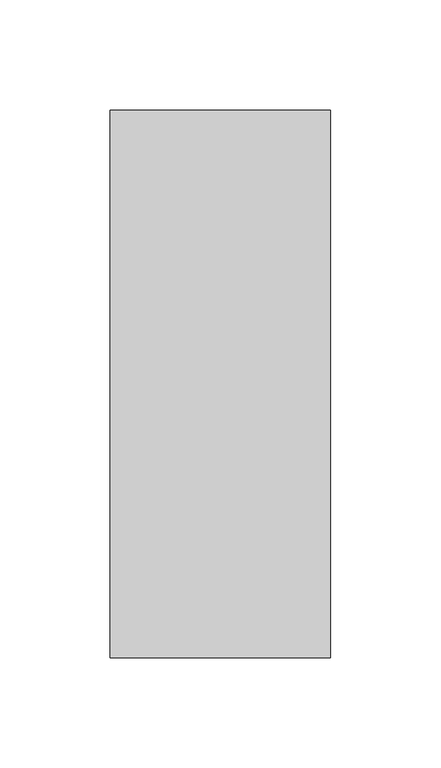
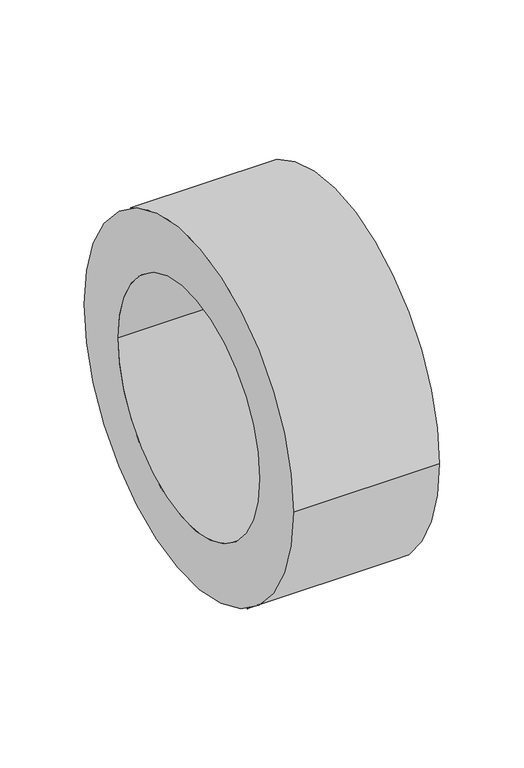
"""IFC4 building model written with IfcOpenShell, lengths in millimetres: pipe fitting geometry, СТ_Подвесы_ДляТруб_IsotermSM_D10-325_СимфонияТепла : Isoterm SM 40-168."""

import ifcopenshell
import ifcopenshell.guid

model = None  # the IFC model being written
_history = None  # IfcOwnerHistory: only IFC2X3 demands one
_inside = {}  # id of a spatial element -> (the spatial element, [elements in it])
_under = {}  # id of a project, library or spatial element -> (it, [spatial elements below it])
_declared = {}  # id of a project -> (the project, [libraries it declares])
_typed = {}  # id of a type object -> (the type object, [elements of that type])
_made_of = {}  # id of a material, layer set ... -> (it, [elements and type objects made of it])


def new_model(schema):
    """Start an empty IFC model of exactly this schema.

    Asked for "IFC4X3", IfcOpenShell would pick the latest addendum, in which some entities
    have other attributes; the version numbers below select the first issue.
    IFC2X3 requires an IfcOwnerHistory on every rooted entity: one is made here for all.
    """
    global model, _history
    if schema == "IFC4X3":
        model = ifcopenshell.file(schema_version=(4, 3, 0, 0))
    else:
        model = ifcopenshell.file(schema=schema)
    _inside.clear()
    _under.clear()
    _declared.clear()
    _typed.clear()
    _made_of.clear()
    _history = None
    if model.schema == "IFC2X3":
        org = make("IfcOrganization", Name="unknown")
        user = make(
            "IfcPersonAndOrganization",
            ThePerson=make("IfcPerson", FamilyName="unknown"),
            TheOrganization=org,
        )
        app = make(
            "IfcApplication",
            ApplicationDeveloper=org,
            Version="unknown",
            ApplicationFullName="unknown",
            ApplicationIdentifier="unknown",
        )
        _history = make(
            "IfcOwnerHistory",
            OwningUser=user,
            OwningApplication=app,
            ChangeAction="ADDED",
            CreationDate=0,
        )
    return model


def make(cls, **values):
    """One entity of the class cls with the attributes given. An attribute that is None is left unset."""
    return model.create_entity(
        cls, **{name: value for name, value in values.items() if value is not None}
    )


def rooted(cls, **values):
    """An entity with a GlobalId (a new one), such as an element, a storey or a relation."""
    return make(cls, GlobalId=ifcopenshell.guid.new(), OwnerHistory=_history, **values)


def si_unit(unit_type, name, prefix=None):
    """IfcSIUnit, for example si_unit("LENGTHUNIT", "METRE", prefix="MILLI")."""
    return make("IfcSIUnit", UnitType=unit_type, Prefix=prefix, Name=name)


def assignment(units):
    """IfcUnitAssignment: the units of a project."""
    return None if units is None else make("IfcUnitAssignment", Units=units)


def point(xyz):
    """IfcCartesianPoint."""
    return None if xyz is None else make("IfcCartesianPoint", Coordinates=xyz)


def direction(xyz):
    """IfcDirection."""
    return None if xyz is None else make("IfcDirection", DirectionRatios=xyz)


def frame(location, z_axis=None, x_axis=None):
    """IfcAxis2Placement3D, a coordinate frame: its origin and axes. An axis left out is left unset."""
    return make(
        "IfcAxis2Placement3D",
        Location=point(location),
        Axis=direction(z_axis),
        RefDirection=direction(x_axis),
    )


def frame_2d(location, x_axis=None):
    """IfcAxis2Placement2D, a coordinate frame in the plane: its origin and x axis."""
    return make(
        "IfcAxis2Placement2D", Location=point(location), RefDirection=direction(x_axis)
    )


def origin():
    """The frame at (0, 0, 0) with its axes left unset."""
    return frame((0.0, 0.0, 0.0))


def origin_2d():
    """The frame at (0, 0) in the plane with its x axis left unset."""
    return frame_2d((0.0, 0.0))


def place(relative_to, where):
    """IfcLocalPlacement: puts the frame where relative to a parent placement (None: the world)."""
    return make(
        "IfcLocalPlacement", PlacementRelTo=relative_to, RelativePlacement=where
    )


def context(
    kind, dimensions, precision=None, world=None, true_north=None, identifier=None
):
    """IfcGeometricRepresentationContext, for example the 3D "Model" context."""
    return make(
        "IfcGeometricRepresentationContext",
        ContextIdentifier=identifier,
        ContextType=kind,
        CoordinateSpaceDimension=dimensions,
        Precision=precision,
        WorldCoordinateSystem=world,
        TrueNorth=true_north,
    )


def project(units=None, contexts=None):
    """IfcProject with its units and contexts."""
    return rooted(
        "IfcProject",
        Name="project",
        RepresentationContexts=contexts,
        UnitsInContext=assignment(units),
    )


def spatial(cls, under=None, at=None, **own):
    """A site, building, storey or space (cls), placed at a placement, below another one or the project."""
    s = rooted(cls, ObjectPlacement=at, **own)
    if under is not None:
        _under.setdefault(under.id(), (under, []))[1].append(s)
    return s


def circle_curve(where, radius):
    """IfcCircle in the frame where."""
    return make("IfcCircle", Position=where, Radius=radius)


def trimmed(basis, trim1, trim2, sense, master):
    """IfcTrimmedCurve: the piece of a basis curve between two trims."""
    return make(
        "IfcTrimmedCurve",
        BasisCurve=basis,
        Trim1=trim1,
        Trim2=trim2,
        SenseAgreement=sense,
        MasterRepresentation=master,
    )


def segment(curve, same_sense, transition):
    """IfcCompositeCurveSegment."""
    return make(
        "IfcCompositeCurveSegment",
        Transition=transition,
        SameSense=same_sense,
        ParentCurve=curve,
    )


def composite_curve(segments, self_intersect=None):
    """IfcCompositeCurve: segments joined end to end."""
    return make("IfcCompositeCurve", Segments=segments, SelfIntersect=self_intersect)


def outline(outer, holes=None, kind="AREA"):
    """IfcArbitraryClosedProfileDef: a profile drawn as a closed curve; with holes, ...WithVoids."""
    if holes is None:
        return make("IfcArbitraryClosedProfileDef", ProfileType=kind, OuterCurve=outer)
    return make(
        "IfcArbitraryProfileDefWithVoids",
        ProfileType=kind,
        OuterCurve=outer,
        InnerCurves=holes,
    )


def extrude(swept, where, along, depth):
    """IfcExtrudedAreaSolid: the profile swept, set in the frame where, extruded along a direction by depth."""
    return make(
        "IfcExtrudedAreaSolid",
        SweptArea=swept,
        Position=where,
        ExtrudedDirection=direction(along),
        Depth=depth,
    )


def shape(context_of_items, identifier, shape_type, items):
    """IfcShapeRepresentation: the items that make up one representation, for example the "Body"."""
    return make(
        "IfcShapeRepresentation",
        ContextOfItems=context_of_items,
        RepresentationIdentifier=identifier,
        RepresentationType=shape_type,
        Items=items,
    )


def source(mapping_origin, context_of_items, identifier, shape_type, items):
    """IfcRepresentationMap: a shape defined once, which mapped items show again and again."""
    return make(
        "IfcRepresentationMap",
        MappingOrigin=mapping_origin,
        MappedRepresentation=shape(context_of_items, identifier, shape_type, items),
    )


def transform(
    local_origin,
    x_axis=None,
    y_axis=None,
    z_axis=None,
    scale=None,
    scale2=None,
    scale3=None,
    uniform=True,
):
    """IfcCartesianTransformationOperator3D, or its non-uniform kind. x_axis, y_axis, z_axis: its Axis1, 2, 3."""
    if uniform:
        return make(
            "IfcCartesianTransformationOperator3D",
            Axis1=direction(x_axis),
            Axis2=direction(y_axis),
            LocalOrigin=point(local_origin),
            Scale=scale,
            Axis3=direction(z_axis),
        )
    return make(
        "IfcCartesianTransformationOperator3DnonUniform",
        Axis1=direction(x_axis),
        Axis2=direction(y_axis),
        LocalOrigin=point(local_origin),
        Scale=scale,
        Axis3=direction(z_axis),
        Scale2=scale2,
        Scale3=scale3,
    )


def mapped(mapping_source, mapping_target):
    """IfcMappedItem: shows the shape of a source again, moved by a transform."""
    return make(
        "IfcMappedItem", MappingSource=mapping_source, MappingTarget=mapping_target
    )


def made_of(thing, what):
    """Note that an element or type object is made of a material, layer set ...; save() writes the relation."""
    if what is not None:
        _made_of.setdefault(what.id(), (what, []))[1].append(thing)
    return thing


def element(
    cls,
    number,
    at=None,
    inside=None,
    cuts=None,
    type_object=None,
    material=None,
    context=None,
    identifier="Body",
    shape_type=None,
    held_by="IfcProductDefinitionShape",
    body=None,
    shapes=None,
    **own,
):
    """One element of the class cls, such as IfcWall. Its Tag is "e" and its number.

    at: its placement. inside: the storey or other place that contains it. cuts: it is an
    opening in that element (IfcRelVoidsElement). A single representation is given by context,
    identifier, shape_type and body (its items); several are given by shapes. held_by: the class
    of the entity that holds the representations. save() writes the other relations.
    """
    e = rooted(cls, Tag="e%d" % number, ObjectPlacement=at, **own)
    if body is not None:
        shapes = [shape(context, identifier, shape_type, body)]
    if shapes is not None:
        e.Representation = make(held_by, Representations=shapes)
    if inside is not None:
        _inside.setdefault(inside.id(), (inside, []))[1].append(e)
    if cuts is not None:
        rooted(
            "IfcRelVoidsElement", RelatingBuildingElement=cuts, RelatedOpeningElement=e
        )
    if type_object is not None:
        _typed.setdefault(type_object.id(), (type_object, []))[1].append(e)
    return made_of(e, material)


def aggregate(whole, parts):
    """IfcRelAggregates: a whole, such as a stair, and the parts it consists of."""
    return rooted("IfcRelAggregates", RelatingObject=whole, RelatedObjects=parts)


def save(model, path):
    """Write the relations noted so far, then the file.

    IfcRelAggregates (storeys below a building ...), IfcRelContainedInSpatialStructure (elements
    in a storey), IfcRelDefinesByType, IfcRelAssociatesMaterial and IfcRelDeclares: one each for
    every whole, place, type object, material and project.
    """
    for whole, parts in _under.values():
        aggregate(whole, parts)
    for where, things in _inside.values():
        rooted(
            "IfcRelContainedInSpatialStructure",
            RelatedElements=things,
            RelatingStructure=where,
        )
    for kind, things in _typed.values():
        rooted("IfcRelDefinesByType", RelatedObjects=things, RelatingType=kind)
    for what, things in _made_of.values():
        rooted("IfcRelAssociatesMaterial", RelatedObjects=things, RelatingMaterial=what)
    for by, libraries in _declared.values():
        rooted("IfcRelDeclares", RelatingContext=by, RelatedDefinitions=libraries)
    model.write(path)


def pipe_fitting_9936371b(model_context):
    return source(origin(), model_context, "Body", "SweptSolid", [
        extrude(outline(composite_curve([segment(trimmed(circle_curve(origin_2d(), 124.0), [point((-124.0, 0.0))], [point((124.0, 0.0))], False, "CARTESIAN"), True, "CONTINUOUS"), segment(trimmed(circle_curve(origin_2d(), 124.0), [point((124.0, 0.0))], [point((-124.0, 0.0))], False, "CARTESIAN"), True, "CONTINUOUS")], self_intersect=False), holes=[composite_curve([segment(trimmed(circle_curve(origin_2d(), 84.0), [point((-84.0, 0.0))], [point((84.0, 0.0))], True, "CARTESIAN"), True, "CONTINUOUS"), segment(trimmed(circle_curve(origin_2d(), 84.0), [point((84.0, 0.0))], [point((-84.0, 0.0))], True, "CARTESIAN"), True, "CONTINUOUS")], self_intersect=False)]), frame((-50.0, 0.0, 0.0), z_axis=(1.0, 0.0, 0.0), x_axis=(0.0, 1.0, 0.0)), (0.0, 0.0, 1.0), 100.0),
    ])


if __name__ == "__main__":
    model = new_model("IFC4")
    model_context = context("Model", 3, world=origin())
    ifc_project = project(units=[si_unit("LENGTHUNIT", "METRE", prefix="MILLI")], contexts=[model_context])
    site = spatial("IfcSite", under=ifc_project)
    building = spatial("IfcBuilding", under=site)
    placement = place(None, origin())
    pipe_fitting_shape = pipe_fitting_9936371b(model_context)
    element("IfcPipeFitting", 1, ObjectType="СТ_Подвесы_ДляТруб_IsotermSM_D10-325_СимфонияТепла : Isoterm SM 40-168", at=placement, inside=building, context=model_context, shape_type="MappedRepresentation", body=[
        mapped(pipe_fitting_shape, transform((0.0, 0.0, 0.0), x_axis=(1.0, 0.0, 0.0), y_axis=(0.0, 1.0, 0.0), z_axis=(0.0, 0.0, 1.0))),
    ])
    save(model, "model.ifc")
